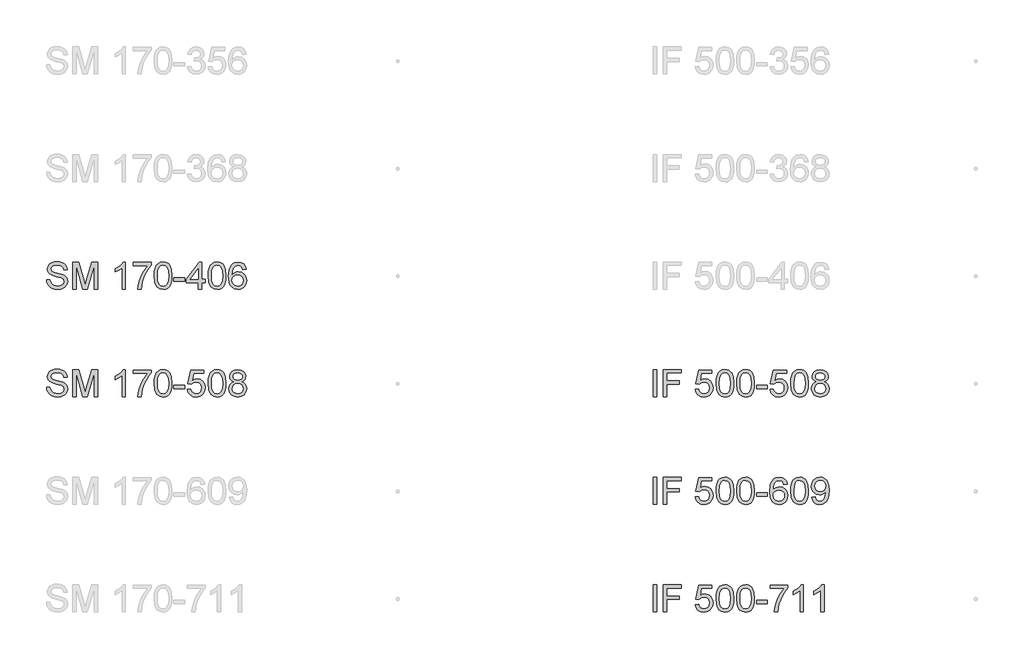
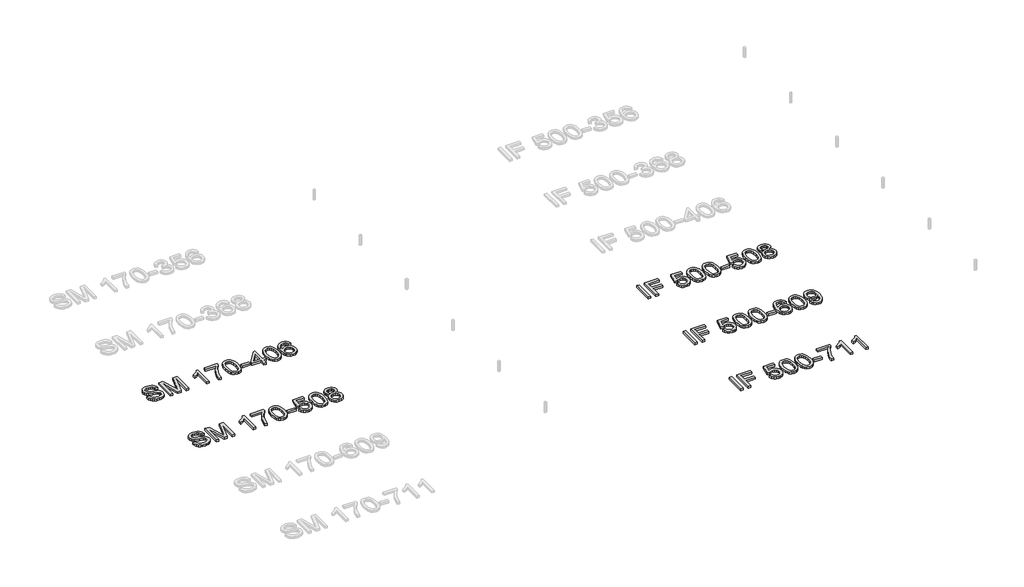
# One storey, part 2 of 10: 5 proxies.
"""IFC4 building model written with IfcOpenShell, lengths in millimetres."""

from ifc_helpers import new_model, si_unit, origin, origin_with_axes, place, context, project, spatial, polyline, outline, extrude, element, save

model = new_model("IFC4")

# Units and contexts
model_context = context("Model", 3, world=origin())
ifc_project = project(units=[si_unit("LENGTHUNIT", "METRE", prefix="MILLI")], contexts=[model_context])

# Site, building, storey
site = spatial("IfcSite", under=ifc_project)
building = spatial("IfcBuilding", under=site)
storey = spatial("IfcBuildingStorey", under=building, Name="Этаж 01", Elevation=0.0)

# Proxies
placement = place(None, origin())
element("IfcBuildingElementProxy", 1, Name="200 мм Arial", ObjectType="200 мм Arial", at=placement, inside=storey, context=model_context, shape_type="SweptSolid", body=[
    extrude(outline(polyline([(362.1098597, -4725.9144615), (387.2239373, -4725.9144615), (395.3173412, -4751.0530645), (403.4475333, -4759.9435461), (415.084867, -4766.9455667), (429.3096375, -4771.4889093), (445.2021397, -4773.0033569), (471.4443887, -4768.4170947), (488.3914859, -4755.811005), (493.9587668, -4738.9620096), (489.7894375, -4723.2902366), (483.4373417, -4717.091425), (472.7197129, -4711.8858947), (436.1522426, -4702.2964374), (396.7888691, -4689.9110769), (384.2870127, -4681.4620537), (375.427188, -4671.2226715), (370.1480813, -4659.4136595), (368.3883791, -4646.2557468), (370.5650143, -4631.5465984), (377.0949197, -4617.8307313), (387.8064171, -4606.2056603), (402.5278283, -4597.7688998), (420.1984268, -4592.636946), (439.7574862, -4590.9262947), (460.9474891, -4592.7166538), (479.4887417, -4598.0877309), (494.7190563, -4606.9291615), (505.9762453, -4619.130581), (513.1008933, -4633.9317), (515.9335846, -4650.5722289), (490.8195071, -4650.5722289), (486.2087194, -4635.5871689), (476.5947366, -4624.7714383), (461.5728885, -4618.2231388), (440.7385048, -4616.0403723), (419.4136118, -4618.1986133), (404.7841712, -4624.6733364), (396.3228853, -4634.2014801), (393.5024567, -4645.5199828), (395.5012822, -4655.1707538), (401.4977587, -4662.9330639), (415.6734782, -4669.8737709), (442.5043384, -4676.9616307), (486.9444834, -4689.5677204), (501.2612244, -4698.6789311), (511.2492206, -4709.9238574), (517.1169384, -4723.179872), (519.0728443, -4738.3243475), (516.8226328, -4753.8060481), (510.0719982, -4768.3680437), (499.096852, -4780.900557), (484.1731057, -4790.2938107), (466.2265957, -4796.1615285), (446.1831584, -4798.1174344), (421.5779843, -4796.0082443), (401.3260804, -4789.680674), (385.1944549, -4779.110198), (372.9501159, -4764.2722909), (365.0897039, -4746.1970222), (362.1098597, -4725.9144615)])), origin_with_axes(), (0.0, 0.0, 1.0), 20.0),
    extrude(outline(polyline([(556.7439606, -4794.9781747), (556.7439606, -4594.0655544), (599.9578323, -4594.0655544), (641.0625139, -4735.6755971), (649.3521216, -4765.2533095), (658.3284422, -4733.2230505), (698.7464108, -4594.0655544), (741.9602825, -4594.0655544), (741.9602825, -4794.9781747), (716.8462049, -4794.9781747), (716.8462049, -4619.179632), (666.3727952, -4794.9781747), (632.3314479, -4794.9781747), (581.8580382, -4619.179632), (581.8580382, -4794.9781747), (556.7439606, -4794.9781747)])), origin_with_axes(), (0.0, 0.0, 1.0), 20.0),
    extrude(outline(polyline([(949.1514222, -4794.9781747), (924.0373446, -4794.9781747), (924.0373446, -4638.4075976), (900.2476423, -4655.3546948), (873.8091896, -4668.0343609), (873.8091896, -4644.2937095), (910.6219145, -4620.7983127), (924.0925269, -4607.2234671), (932.9646144, -4594.0655544), (949.1514222, -4594.0655544), (949.1514222, -4794.9781747)])), origin_with_axes(), (0.0, 0.0, 1.0), 20.0),
    extrude(outline(polyline([(1008.7973563, -4622.3188917), (1008.7973563, -4597.2048141), (1140.6462634, -4597.2048141), (1140.6462634, -4617.5119003), (1121.8536248, -4641.2954712), (1103.2449272, -4671.5415026), (1086.8312589, -4705.4908794), (1074.623708, -4740.3844866), (1065.3040308, -4794.9781747), (1040.1899532, -4794.9781747), (1042.9061486, -4769.091545), (1050.171818, -4738.3243475), (1061.7907577, -4705.7116086), (1077.566764, -4674.2883548), (1095.9853892, -4645.8817334), (1115.5321859, -4622.3188917), (1008.7973563, -4622.3188917)])), origin_with_axes(), (0.0, 0.0, 1.0), 20.0),
    extrude(outline(polyline([(1162.6210812, -4696.1405454), (1164.4666226, -4663.9815276), (1170.0032466, -4638.3340212), (1179.175771, -4618.8056186), (1191.9290135, -4605.0039124), (1208.3549446, -4596.8001439), (1228.5455348, -4594.0655544), (1244.021104, -4595.6842352), (1257.8779925, -4600.5402775), (1269.4662754, -4608.4436091), (1278.1360277, -4619.2041574), (1289.9082516, -4648.9290226), (1294.4699883, -4696.1405454), (1292.6428411, -4728.1156221), (1287.1613993, -4753.7018149), (1278.0440572, -4773.2486115), (1265.3092088, -4787.1055), (1248.8464895, -4795.3644508), (1228.5455348, -4798.1174344), (1202.4504386, -4793.3349685), (1182.6338618, -4778.9875707), (1173.8782703, -4763.8584236), (1167.6242764, -4745.007537), (1162.6210812, -4696.1405454)]), holes=[polyline([(1187.7351588, -4696.0914944), (1190.6782147, -4735.5958893), (1199.5073826, -4758.4597553), (1212.6530326, -4769.3674565), (1228.5455348, -4773.0033569), (1244.438037, -4769.3551938), (1257.5836869, -4758.4107044), (1266.4128548, -4735.5345757), (1269.3559108, -4696.0914944), (1266.5109567, -4657.4761477), (1257.9760944, -4634.434472), (1244.8549699, -4622.993342), (1228.2512292, -4619.179632), (1212.5304052, -4622.5396209), (1199.8997901, -4632.6195875), (1190.7763166, -4657.0960029), (1187.7351588, -4696.0914944)])]), origin_with_axes(), (0.0, 0.0, 1.0), 20.0),
    extrude(outline(polyline([(1310.1662868, -4735.3322406), (1310.1662868, -4710.218163), (1388.6477791, -4710.218163), (1388.6477791, -4735.3322406), (1310.1662868, -4735.3322406)])), origin_with_axes(), (0.0, 0.0, 1.0), 20.0),
    extrude(outline(polyline([(1492.2433489, -4794.9781747), (1492.2433489, -4747.8892793), (1401.2048178, -4747.8892793), (1401.2048178, -4722.7752018), (1498.5218683, -4597.2048141), (1517.3574265, -4597.2048141), (1517.3574265, -4722.7752018), (1542.471504, -4722.7752018), (1542.471504, -4747.8892793), (1517.3574265, -4747.8892793), (1517.3574265, -4794.9781747), (1492.2433489, -4794.9781747)]), holes=[polyline([(1492.2433489, -4722.7752018), (1492.2433489, -4645.1766263), (1432.1069054, -4722.7752018), (1492.2433489, -4722.7752018)])]), origin_with_axes(), (0.0, 0.0, 1.0), 20.0),
    extrude(outline(polyline([(1564.4463218, -4696.1405454), (1566.2918632, -4663.9815276), (1571.8284872, -4638.3340212), (1581.0010116, -4618.8056186), (1593.7542541, -4605.0039124), (1610.1801852, -4596.8001439), (1630.3707754, -4594.0655544), (1645.8463446, -4595.6842352), (1659.7032331, -4600.5402775), (1671.291516, -4608.4436091), (1679.9612683, -4619.2041574), (1691.7334922, -4648.9290226), (1696.2952289, -4696.1405454), (1694.4680817, -4728.1156221), (1688.9866399, -4753.7018149), (1679.8692978, -4773.2486115), (1667.1344494, -4787.1055), (1650.6717301, -4795.3644508), (1630.3707754, -4798.1174344), (1604.2756792, -4793.3349685), (1584.4591024, -4778.9875707), (1575.7035109, -4763.8584236), (1569.449517, -4745.007537), (1564.4463218, -4696.1405454)]), holes=[polyline([(1589.5603994, -4696.0914944), (1592.5034553, -4735.5958893), (1601.3326232, -4758.4597553), (1614.4782732, -4769.3674565), (1630.3707754, -4773.0033569), (1646.2632776, -4769.3551938), (1659.4089275, -4758.4107044), (1668.2380954, -4735.5345757), (1671.1811514, -4696.0914944), (1668.3361973, -4657.4761477), (1659.801335, -4634.434472), (1646.6802105, -4622.993342), (1630.0764698, -4619.179632), (1614.3556458, -4622.5396209), (1601.7250307, -4632.6195875), (1592.6015572, -4657.0960029), (1589.5603994, -4696.0914944)])]), origin_with_axes(), (0.0, 0.0, 1.0), 20.0),
    extrude(outline(polyline([(1846.9796941, -4647.4329692), (1821.8656166, -4650.5722289), (1812.3497357, -4629.6274806), (1800.9576565, -4621.7915941), (1787.1866072, -4619.179632), (1764.5250763, -4625.2619476), (1755.0889031, -4634.8697991), (1747.3817753, -4648.0951568), (1742.1762451, -4666.8019562), (1740.2448646, -4692.8541329), (1750.3186999, -4681.1003031), (1762.3913607, -4672.8168269), (1775.7883967, -4667.9056022), (1789.8353575, -4666.2685273), (1813.0364487, -4670.744425), (1832.509669, -4684.1721178), (1845.7166326, -4704.6876704), (1850.1189538, -4730.4271473), (1848.0465519, -4748.4104455), (1841.8293462, -4765.0816312), (1831.9823715, -4779.2205626), (1819.0206625, -4789.6070976), (1803.5328305, -4795.9898502), (1786.1074867, -4798.1174344), (1757.6150261, -4792.4765772), (1734.9228384, -4775.5540054), (1726.2638159, -4762.4451436), (1720.0787999, -4745.6819874), (1715.1307871, -4701.1927914), (1720.6244915, -4651.1731028), (1727.4916221, -4632.0953557), (1737.1056049, -4616.97234), (1747.5258624, -4606.9506213), (1759.6077203, -4599.7922508), (1788.756237, -4594.0655544), (1810.7923685, -4597.6094843), (1828.4384416, -4608.241274), (1840.7992766, -4625.1270576), (1846.9796941, -4647.4329692)]), holes=[polyline([(1740.2448646, -4730.0347398), (1746.0574001, -4751.7888285), (1761.5084439, -4767.5832288), (1784.1454494, -4773.0033569), (1800.7185332, -4770.195191), (1813.7476872, -4761.7706933), (1822.190579, -4748.5269415), (1825.0048763, -4731.2610132), (1822.2273672, -4714.6879293), (1813.89484, -4702.0511827), (1800.6449568, -4694.0497493), (1783.1153798, -4691.3826049), (1766.5668214, -4694.0497493), (1752.728327, -4702.0511827), (1743.3657302, -4714.3813609), (1740.2448646, -4730.0347398)])]), origin_with_axes(), (0.0, 0.0, 1.0), 20.0),
])
element("IfcBuildingElementProxy", 2, Name="200 мм Arial", ObjectType="200 мм Arial", at=placement, inside=storey, context=model_context, shape_type="SweptSolid", body=[
    extrude(outline(polyline([(362.1098597, -5525.9144615), (387.2239373, -5525.9144615), (395.3173412, -5551.0530645), (403.4475333, -5559.9435461), (415.084867, -5566.9455667), (429.3096375, -5571.4889093), (445.2021397, -5573.0033569), (471.4443887, -5568.4170947), (488.3914859, -5555.811005), (493.9587668, -5538.9620096), (489.7894375, -5523.2902366), (483.4373417, -5517.091425), (472.7197129, -5511.8858947), (436.1522426, -5502.2964374), (396.7888691, -5489.9110769), (384.2870127, -5481.4620537), (375.427188, -5471.2226715), (370.1480813, -5459.4136595), (368.3883791, -5446.2557468), (370.5650143, -5431.5465984), (377.0949197, -5417.8307313), (387.8064171, -5406.2056603), (402.5278283, -5397.7688998), (420.1984268, -5392.636946), (439.7574862, -5390.9262947), (460.9474891, -5392.7166538), (479.4887417, -5398.0877309), (494.7190563, -5406.9291615), (505.9762453, -5419.130581), (513.1008933, -5433.9317), (515.9335846, -5450.5722289), (490.8195071, -5450.5722289), (486.2087194, -5435.5871689), (476.5947366, -5424.7714383), (461.5728885, -5418.2231388), (440.7385048, -5416.0403723), (419.4136118, -5418.1986133), (404.7841712, -5424.6733364), (396.3228853, -5434.2014801), (393.5024567, -5445.5199828), (395.5012822, -5455.1707538), (401.4977587, -5462.9330639), (415.6734782, -5469.8737709), (442.5043384, -5476.9616307), (486.9444834, -5489.5677204), (501.2612244, -5498.6789311), (511.2492206, -5509.9238574), (517.1169384, -5523.179872), (519.0728443, -5538.3243475), (516.8226328, -5553.8060481), (510.0719982, -5568.3680437), (499.096852, -5580.900557), (484.1731057, -5590.2938107), (466.2265957, -5596.1615285), (446.1831584, -5598.1174344), (421.5779843, -5596.0082443), (401.3260804, -5589.680674), (385.1944549, -5579.110198), (372.9501159, -5564.2722909), (365.0897039, -5546.1970222), (362.1098597, -5525.9144615)])), origin_with_axes(), (0.0, 0.0, 1.0), 20.0),
    extrude(outline(polyline([(556.7439606, -5594.9781747), (556.7439606, -5394.0655544), (599.9578323, -5394.0655544), (641.0625139, -5535.6755971), (649.3521216, -5565.2533095), (658.3284422, -5533.2230505), (698.7464108, -5394.0655544), (741.9602825, -5394.0655544), (741.9602825, -5594.9781747), (716.8462049, -5594.9781747), (716.8462049, -5419.179632), (666.3727952, -5594.9781747), (632.3314479, -5594.9781747), (581.8580382, -5419.179632), (581.8580382, -5594.9781747), (556.7439606, -5594.9781747)])), origin_with_axes(), (0.0, 0.0, 1.0), 20.0),
    extrude(outline(polyline([(949.1514222, -5594.9781747), (924.0373446, -5594.9781747), (924.0373446, -5438.4075976), (900.2476423, -5455.3546948), (873.8091896, -5468.0343609), (873.8091896, -5444.2937095), (910.6219145, -5420.7983127), (924.0925269, -5407.2234671), (932.9646144, -5394.0655544), (949.1514222, -5394.0655544), (949.1514222, -5594.9781747)])), origin_with_axes(), (0.0, 0.0, 1.0), 20.0),
    extrude(outline(polyline([(1008.7973563, -5422.3188917), (1008.7973563, -5397.2048141), (1140.6462634, -5397.2048141), (1140.6462634, -5417.5119003), (1121.8536248, -5441.2954712), (1103.2449272, -5471.5415026), (1086.8312589, -5505.4908794), (1074.623708, -5540.3844866), (1065.3040308, -5594.9781747), (1040.1899532, -5594.9781747), (1042.9061486, -5569.091545), (1050.171818, -5538.3243475), (1061.7907577, -5505.7116086), (1077.566764, -5474.2883548), (1095.9853892, -5445.8817334), (1115.5321859, -5422.3188917), (1008.7973563, -5422.3188917)])), origin_with_axes(), (0.0, 0.0, 1.0), 20.0),
    extrude(outline(polyline([(1162.6210812, -5496.1405454), (1164.4666226, -5463.9815276), (1170.0032466, -5438.3340212), (1179.175771, -5418.8056186), (1191.9290135, -5405.0039124), (1208.3549446, -5396.8001439), (1228.5455348, -5394.0655544), (1244.021104, -5395.6842352), (1257.8779925, -5400.5402775), (1269.4662754, -5408.4436091), (1278.1360277, -5419.2041574), (1289.9082516, -5448.9290226), (1294.4699883, -5496.1405454), (1292.6428411, -5528.1156221), (1287.1613993, -5553.7018149), (1278.0440572, -5573.2486115), (1265.3092088, -5587.1055), (1248.8464895, -5595.3644508), (1228.5455348, -5598.1174344), (1202.4504386, -5593.3349685), (1182.6338618, -5578.9875707), (1173.8782703, -5563.8584236), (1167.6242764, -5545.007537), (1162.6210812, -5496.1405454)]), holes=[polyline([(1187.7351588, -5496.0914944), (1190.6782147, -5535.5958893), (1199.5073826, -5558.4597553), (1212.6530326, -5569.3674565), (1228.5455348, -5573.0033569), (1244.438037, -5569.3551938), (1257.5836869, -5558.4107044), (1266.4128548, -5535.5345757), (1269.3559108, -5496.0914944), (1266.5109567, -5457.4761477), (1257.9760944, -5434.434472), (1244.8549699, -5422.993342), (1228.2512292, -5419.179632), (1212.5304052, -5422.5396209), (1199.8997901, -5432.6195875), (1190.7763166, -5457.0960029), (1187.7351588, -5496.0914944)])]), origin_with_axes(), (0.0, 0.0, 1.0), 20.0),
    extrude(outline(polyline([(1310.1662868, -5535.3322406), (1310.1662868, -5510.218163), (1388.6477791, -5510.218163), (1388.6477791, -5535.3322406), (1310.1662868, -5535.3322406)])), origin_with_axes(), (0.0, 0.0, 1.0), 20.0),
    extrude(outline(polyline([(1410.6225969, -5541.61076), (1435.7366745, -5538.4715003), (1440.3474621, -5553.5485307), (1448.3918151, -5564.3458673), (1459.8329451, -5570.8389845), (1474.6340641, -5573.0033569), (1492.6357564, -5569.9928559), (1506.1247629, -5560.9613529), (1514.5492606, -5546.9511803), (1517.3574265, -5529.0046703), (1514.7270702, -5512.1066239), (1506.8360014, -5499.1817032), (1493.6229064, -5490.9779347), (1475.0264715, -5488.2433452), (1452.9780773, -5492.6088782), (1438.8759341, -5503.9396437), (1413.7618566, -5500.800384), (1435.7366745, -5397.2048141), (1533.0537249, -5397.2048141), (1533.0537249, -5422.3188917), (1456.0437606, -5422.3188917), (1445.3016063, -5477.6483437), (1463.241985, -5466.7590367), (1482.0407549, -5463.1292677), (1505.5054948, -5467.6296907), (1524.9848465, -5481.13096), (1538.0998396, -5501.7078262), (1542.471504, -5527.4350404), (1538.5351666, -5552.5491179), (1526.7261546, -5574.0334265), (1516.2905687, -5584.5701799), (1504.1136746, -5592.0964324), (1490.1954725, -5596.6121839), (1474.5359622, -5598.1174344), (1449.8694744, -5594.2485421), (1430.2184445, -5582.6418652), (1416.7478321, -5564.6463042), (1410.6225969, -5541.61076)])), origin_with_axes(), (0.0, 0.0, 1.0), 20.0),
    extrude(outline(polyline([(1564.4463218, -5496.1405454), (1566.2918632, -5463.9815276), (1571.8284872, -5438.3340212), (1581.0010116, -5418.8056186), (1593.7542541, -5405.0039124), (1610.1801852, -5396.8001439), (1630.3707754, -5394.0655544), (1645.8463446, -5395.6842352), (1659.7032331, -5400.5402775), (1671.291516, -5408.4436091), (1679.9612683, -5419.2041574), (1691.7334922, -5448.9290226), (1696.2952289, -5496.1405454), (1694.4680817, -5528.1156221), (1688.9866399, -5553.7018149), (1679.8692978, -5573.2486115), (1667.1344494, -5587.1055), (1650.6717301, -5595.3644508), (1630.3707754, -5598.1174344), (1604.2756792, -5593.3349685), (1584.4591024, -5578.9875707), (1575.7035109, -5563.8584236), (1569.449517, -5545.007537), (1564.4463218, -5496.1405454)]), holes=[polyline([(1589.5603994, -5496.0914944), (1592.5034553, -5535.5958893), (1601.3326232, -5558.4597553), (1614.4782732, -5569.3674565), (1630.3707754, -5573.0033569), (1646.2632776, -5569.3551938), (1659.4089275, -5558.4107044), (1668.2380954, -5535.5345757), (1671.1811514, -5496.0914944), (1668.3361973, -5457.4761477), (1659.801335, -5434.434472), (1646.6802105, -5422.993342), (1630.0764698, -5419.179632), (1614.3556458, -5422.5396209), (1601.7250307, -5432.6195875), (1592.6015572, -5457.0960029), (1589.5603994, -5496.0914944)])]), origin_with_axes(), (0.0, 0.0, 1.0), 20.0),
    extrude(outline(polyline([(1754.8620425, -5484.3192706), (1741.4159556, -5477.6973947), (1731.9797824, -5468.721074), (1726.4063702, -5457.5742495), (1724.5485661, -5444.4408623), (1728.5952681, -5424.8082265), (1740.7353739, -5408.5846305), (1759.6077203, -5397.6953234), (1783.8511438, -5394.0655544), (1808.24172, -5397.7811626), (1827.3593211, -5408.927987), (1839.7201561, -5425.4091004), (1843.8404344, -5445.1275754), (1842.0071558, -5457.8378983), (1836.50732, -5468.7946504), (1827.2796133, -5477.7157888), (1814.262722, -5484.3192706), (1829.7198972, -5492.2839158), (1840.9709549, -5504.0132201), (1847.8319541, -5518.9430977), (1850.1189538, -5536.509463), (1845.5817425, -5560.5198945), (1831.9701087, -5580.3609968), (1810.9517841, -5593.678325), (1784.1945003, -5598.1174344), (1757.4372165, -5593.6599309), (1736.4188918, -5580.2874204), (1722.807258, -5560.2562457), (1718.2700468, -5535.8227499), (1720.649017, -5517.5758029), (1727.7859277, -5502.5662175), (1739.3128969, -5491.3090285), (1754.8620425, -5484.3192706)]), holes=[polyline([(1749.6626437, -5445.1766263), (1751.8883297, -5456.1395097), (1758.565388, -5464.8951012), (1769.4976146, -5470.6340604), (1784.4888059, -5472.5470467), (1799.1305093, -5470.6463231), (1809.897189, -5464.9441522), (1816.5190649, -5456.4828663), (1818.7263569, -5446.3047977), (1816.4454885, -5435.7404531), (1809.6028834, -5427.0032557), (1798.6890509, -5421.1355379), (1784.1945003, -5419.179632), (1769.6079792, -5421.0926183), (1758.7125408, -5426.8315775), (1751.9251179, -5435.2438124), (1749.6626437, -5445.1766263)]), polyline([(1743.3841243, -5534.9398331), (1747.577979, -5553.8489677), (1753.3843832, -5561.9607657), (1762.4158862, -5568.0001617), (1784.390704, -5573.0033569), (1801.4849541, -5570.3730006), (1814.311773, -5562.4819318), (1822.3316005, -5550.5318983), (1825.0048763, -5535.724648), (1822.2457613, -5520.6660117), (1813.9684164, -5508.4523295), (1800.8472919, -5500.3589256), (1783.5568382, -5497.6611243), (1766.7017114, -5500.3221374), (1754.0036512, -5508.3051767), (1746.039006, -5520.285867), (1743.3841243, -5534.9398331)])]), origin_with_axes(), (0.0, 0.0, 1.0), 20.0),
])
element("IfcBuildingElementProxy", 3, Name="200 мм Arial", ObjectType="200 мм Arial", at=placement, inside=storey, context=model_context, shape_type="SweptSolid", body=[
    extrude(outline(polyline([(4874.6668985, -5594.9781747), (4874.6668985, -5394.0655544), (4899.780976, -5394.0655544), (4899.780976, -5594.9781747), (4874.6668985, -5594.9781747)])), origin_with_axes(), (0.0, 0.0, 1.0), 20.0),
    extrude(outline(polyline([(4950.0091311, -5594.9781747), (4950.0091311, -5394.0655544), (5084.9972979, -5394.0655544), (5084.9972979, -5419.179632), (4975.1232086, -5419.179632), (4975.1232086, -5478.8255661), (5069.3009994, -5478.8255661), (5069.3009994, -5503.9396437), (4975.1232086, -5503.9396437), (4975.1232086, -5594.9781747), (4950.0091311, -5594.9781747)])), origin_with_axes(), (0.0, 0.0, 1.0), 20.0),
    extrude(outline(polyline([(5188.5928677, -5541.61076), (5213.7069453, -5538.4715003), (5218.3177329, -5553.5485307), (5226.3620859, -5564.3458673), (5237.8032159, -5570.8389845), (5252.6043349, -5573.0033569), (5270.6060272, -5569.9928559), (5284.0950337, -5560.9613529), (5292.5195314, -5546.9511803), (5295.3276973, -5529.0046703), (5292.697341, -5512.1066239), (5284.8062722, -5499.1817032), (5271.5931772, -5490.9779347), (5252.9967423, -5488.2433452), (5230.9483481, -5492.6088782), (5216.8462049, -5503.9396437), (5191.7321274, -5500.800384), (5213.7069453, -5397.2048141), (5311.0239957, -5397.2048141), (5311.0239957, -5422.3188917), (5234.0140314, -5422.3188917), (5223.2718771, -5477.6483437), (5241.2122558, -5466.7590367), (5260.0110257, -5463.1292677), (5283.4757656, -5467.6296907), (5302.9551173, -5481.13096), (5316.0701104, -5501.7078262), (5320.4417748, -5527.4350404), (5316.5054374, -5552.5491179), (5304.6964254, -5574.0334265), (5294.2608395, -5584.5701799), (5282.0839454, -5592.0964324), (5268.1657433, -5596.6121839), (5252.506233, -5598.1174344), (5227.8397452, -5594.2485421), (5208.1887153, -5582.6418652), (5194.7181029, -5564.6463042), (5188.5928677, -5541.61076)])), origin_with_axes(), (0.0, 0.0, 1.0), 20.0),
    extrude(outline(polyline([(5342.4165926, -5496.1405454), (5344.262134, -5463.9815276), (5349.798758, -5438.3340212), (5358.9712824, -5418.8056186), (5371.7245249, -5405.0039124), (5388.150456, -5396.8001439), (5408.3410462, -5394.0655544), (5423.8166154, -5395.6842352), (5437.6735039, -5400.5402775), (5449.2617868, -5408.4436091), (5457.9315391, -5419.2041574), (5469.703763, -5448.9290226), (5474.2654997, -5496.1405454), (5472.4383525, -5528.1156221), (5466.9569107, -5553.7018149), (5457.8395686, -5573.2486115), (5445.1047202, -5587.1055), (5428.6420009, -5595.3644508), (5408.3410462, -5598.1174344), (5382.24595, -5593.3349685), (5362.4293732, -5578.9875707), (5353.6737817, -5563.8584236), (5347.4197878, -5545.007537), (5342.4165926, -5496.1405454)]), holes=[polyline([(5367.5306702, -5496.0914944), (5370.4737261, -5535.5958893), (5379.302894, -5558.4597553), (5392.448544, -5569.3674565), (5408.3410462, -5573.0033569), (5424.2335484, -5569.3551938), (5437.3791983, -5558.4107044), (5446.2083662, -5535.5345757), (5449.1514222, -5496.0914944), (5446.3064681, -5457.4761477), (5437.7716058, -5434.434472), (5424.6504813, -5422.993342), (5408.0467406, -5419.179632), (5392.3259166, -5422.5396209), (5379.6953015, -5432.6195875), (5370.571828, -5457.0960029), (5367.5306702, -5496.0914944)])]), origin_with_axes(), (0.0, 0.0, 1.0), 20.0),
    extrude(outline(polyline([(5496.2403175, -5496.1405454), (5498.0858589, -5463.9815276), (5503.6224829, -5438.3340212), (5512.7950073, -5418.8056186), (5525.5482498, -5405.0039124), (5541.9741809, -5396.8001439), (5562.1647711, -5394.0655544), (5577.6403403, -5395.6842352), (5591.4972288, -5400.5402775), (5603.0855117, -5408.4436091), (5611.755264, -5419.2041574), (5623.5274879, -5448.9290226), (5628.0892246, -5496.1405454), (5626.2620774, -5528.1156221), (5620.7806357, -5553.7018149), (5611.6632935, -5573.2486115), (5598.9284451, -5587.1055), (5582.4657259, -5595.3644508), (5562.1647711, -5598.1174344), (5536.0696749, -5593.3349685), (5516.2530981, -5578.9875707), (5507.4975066, -5563.8584236), (5501.2435127, -5545.007537), (5496.2403175, -5496.1405454)]), holes=[polyline([(5521.3543951, -5496.0914944), (5524.297451, -5535.5958893), (5533.1266189, -5558.4597553), (5546.2722689, -5569.3674565), (5562.1647711, -5573.0033569), (5578.0572733, -5569.3551938), (5591.2029232, -5558.4107044), (5600.0320911, -5535.5345757), (5602.9751471, -5496.0914944), (5600.130193, -5457.4761477), (5591.5953307, -5434.434472), (5578.4742062, -5422.993342), (5561.8704655, -5419.179632), (5546.1496416, -5422.5396209), (5533.5190264, -5432.6195875), (5524.3955529, -5457.0960029), (5521.3543951, -5496.0914944)])]), origin_with_axes(), (0.0, 0.0, 1.0), 20.0),
    extrude(outline(polyline([(5643.7855231, -5535.3322406), (5643.7855231, -5510.218163), (5722.2670154, -5510.218163), (5722.2670154, -5535.3322406), (5643.7855231, -5535.3322406)])), origin_with_axes(), (0.0, 0.0, 1.0), 20.0),
    extrude(outline(polyline([(5744.2418332, -5541.61076), (5769.3559108, -5538.4715003), (5773.9666984, -5553.5485307), (5782.0110514, -5564.3458673), (5793.4521815, -5570.8389845), (5808.2533004, -5573.0033569), (5826.2549927, -5569.9928559), (5839.7439992, -5560.9613529), (5848.1684969, -5546.9511803), (5850.9766628, -5529.0046703), (5848.3463065, -5512.1066239), (5840.4552377, -5499.1817032), (5827.2421427, -5490.9779347), (5808.6457079, -5488.2433452), (5786.5973136, -5492.6088782), (5772.4951705, -5503.9396437), (5747.3810929, -5500.800384), (5769.3559108, -5397.2048141), (5866.6729612, -5397.2048141), (5866.6729612, -5422.3188917), (5789.6629969, -5422.3188917), (5778.9208426, -5477.6483437), (5796.8612213, -5466.7590367), (5815.6599912, -5463.1292677), (5839.1247312, -5467.6296907), (5858.6040828, -5481.13096), (5871.7190759, -5501.7078262), (5876.0907403, -5527.4350404), (5872.154403, -5552.5491179), (5860.3453909, -5574.0334265), (5849.909805, -5584.5701799), (5837.7329109, -5592.0964324), (5823.8147088, -5596.6121839), (5808.1551985, -5598.1174344), (5783.4887108, -5594.2485421), (5763.8376808, -5582.6418652), (5750.3670685, -5564.6463042), (5744.2418332, -5541.61076)])), origin_with_axes(), (0.0, 0.0, 1.0), 20.0),
    extrude(outline(polyline([(5898.0655581, -5496.1405454), (5899.9110995, -5463.9815276), (5905.4477235, -5438.3340212), (5914.6202479, -5418.8056186), (5927.3734904, -5405.0039124), (5943.7994215, -5396.8001439), (5963.9900117, -5394.0655544), (5979.4655809, -5395.6842352), (5993.3224694, -5400.5402775), (6004.9107523, -5408.4436091), (6013.5805046, -5419.2041574), (6025.3527285, -5448.9290226), (6029.9144652, -5496.1405454), (6028.087318, -5528.1156221), (6022.6058762, -5553.7018149), (6013.4885341, -5573.2486115), (6000.7536857, -5587.1055), (5984.2909665, -5595.3644508), (5963.9900117, -5598.1174344), (5937.8949155, -5593.3349685), (5918.0783387, -5578.9875707), (5909.3227472, -5563.8584236), (5903.0687533, -5545.007537), (5898.0655581, -5496.1405454)]), holes=[polyline([(5923.1796357, -5496.0914944), (5926.1226916, -5535.5958893), (5934.9518595, -5558.4597553), (5948.0975095, -5569.3674565), (5963.9900117, -5573.0033569), (5979.8825139, -5569.3551938), (5993.0281638, -5558.4107044), (6001.8573317, -5535.5345757), (6004.8003877, -5496.0914944), (6001.9554336, -5457.4761477), (5993.4205713, -5434.434472), (5980.2994468, -5422.993342), (5963.6957061, -5419.179632), (5947.9748822, -5422.5396209), (5935.344267, -5432.6195875), (5926.2207935, -5457.0960029), (5923.1796357, -5496.0914944)])]), origin_with_axes(), (0.0, 0.0, 1.0), 20.0),
    extrude(outline(polyline([(6088.4812789, -5484.3192706), (6075.0351919, -5477.6973947), (6065.5990188, -5468.721074), (6060.0256065, -5457.5742495), (6058.1678024, -5444.4408623), (6062.2145044, -5424.8082265), (6074.3546102, -5408.5846305), (6093.2269566, -5397.6953234), (6117.4703801, -5394.0655544), (6141.8609564, -5397.7811626), (6160.9785574, -5408.927987), (6173.3393924, -5425.4091004), (6177.4596708, -5445.1275754), (6175.6263921, -5457.8378983), (6170.1265563, -5468.7946504), (6160.8988496, -5477.7157888), (6147.8819583, -5484.3192706), (6163.3391335, -5492.2839158), (6174.5901912, -5504.0132201), (6181.4511904, -5518.9430977), (6183.7381901, -5536.509463), (6179.2009789, -5560.5198945), (6165.589345, -5580.3609968), (6144.5710204, -5593.678325), (6117.8137366, -5598.1174344), (6091.0564528, -5593.6599309), (6070.0381282, -5580.2874204), (6056.4264943, -5560.2562457), (6051.8892831, -5535.8227499), (6054.2682533, -5517.5758029), (6061.405164, -5502.5662175), (6072.9321332, -5491.3090285), (6088.4812789, -5484.3192706)]), holes=[polyline([(6083.28188, -5445.1766263), (6085.5075661, -5456.1395097), (6092.1846243, -5464.8951012), (6103.1168509, -5470.6340604), (6118.1080422, -5472.5470467), (6132.7497456, -5470.6463231), (6143.5164253, -5464.9441522), (6150.1383012, -5456.4828663), (6152.3455932, -5446.3047977), (6150.0647248, -5435.7404531), (6143.2221197, -5427.0032557), (6132.3082872, -5421.1355379), (6117.8137366, -5419.179632), (6103.2272155, -5421.0926183), (6092.3317771, -5426.8315775), (6085.5443543, -5435.2438124), (6083.28188, -5445.1766263)]), polyline([(6077.0033606, -5534.9398331), (6081.1972153, -5553.8489677), (6087.0036195, -5561.9607657), (6096.0351225, -5568.0001617), (6118.0099403, -5573.0033569), (6135.1041904, -5570.3730006), (6147.9310093, -5562.4819318), (6155.9508368, -5550.5318983), (6158.6241126, -5535.724648), (6155.8649976, -5520.6660117), (6147.5876527, -5508.4523295), (6134.4665282, -5500.3589256), (6117.1760745, -5497.6611243), (6100.3209477, -5500.3221374), (6087.6228875, -5508.3051767), (6079.6582423, -5520.285867), (6077.0033606, -5534.9398331)])]), origin_with_axes(), (0.0, 0.0, 1.0), 20.0),
])
element("IfcBuildingElementProxy", 4, Name="200 мм Arial", ObjectType="200 мм Arial", at=placement, inside=storey, context=model_context, shape_type="SweptSolid", body=[
    extrude(outline(polyline([(4874.6668985, -6394.9781747), (4874.6668985, -6194.0655544), (4899.780976, -6194.0655544), (4899.780976, -6394.9781747), (4874.6668985, -6394.9781747)])), origin_with_axes(), (0.0, 0.0, 1.0), 20.0),
    extrude(outline(polyline([(4950.0091311, -6394.9781747), (4950.0091311, -6194.0655544), (5084.9972979, -6194.0655544), (5084.9972979, -6219.179632), (4975.1232086, -6219.179632), (4975.1232086, -6278.8255661), (5069.3009994, -6278.8255661), (5069.3009994, -6303.9396437), (4975.1232086, -6303.9396437), (4975.1232086, -6394.9781747), (4950.0091311, -6394.9781747)])), origin_with_axes(), (0.0, 0.0, 1.0), 20.0),
    extrude(outline(polyline([(5188.5928677, -6341.61076), (5213.7069453, -6338.4715003), (5218.3177329, -6353.5485307), (5226.3620859, -6364.3458673), (5237.8032159, -6370.8389845), (5252.6043349, -6373.0033569), (5270.6060272, -6369.9928559), (5284.0950337, -6360.9613529), (5292.5195314, -6346.9511803), (5295.3276973, -6329.0046703), (5292.697341, -6312.1066239), (5284.8062722, -6299.1817032), (5271.5931772, -6290.9779347), (5252.9967423, -6288.2433452), (5230.9483481, -6292.6088782), (5216.8462049, -6303.9396437), (5191.7321274, -6300.800384), (5213.7069453, -6197.2048141), (5311.0239957, -6197.2048141), (5311.0239957, -6222.3188917), (5234.0140314, -6222.3188917), (5223.2718771, -6277.6483437), (5241.2122558, -6266.7590367), (5260.0110257, -6263.1292677), (5283.4757656, -6267.6296907), (5302.9551173, -6281.13096), (5316.0701104, -6301.7078262), (5320.4417748, -6327.4350404), (5316.5054374, -6352.5491179), (5304.6964254, -6374.0334265), (5294.2608395, -6384.5701799), (5282.0839454, -6392.0964324), (5268.1657433, -6396.6121839), (5252.506233, -6398.1174344), (5227.8397452, -6394.2485421), (5208.1887153, -6382.6418652), (5194.7181029, -6364.6463042), (5188.5928677, -6341.61076)])), origin_with_axes(), (0.0, 0.0, 1.0), 20.0),
    extrude(outline(polyline([(5342.4165926, -6296.1405454), (5344.262134, -6263.9815276), (5349.798758, -6238.3340212), (5358.9712824, -6218.8056186), (5371.7245249, -6205.0039124), (5388.150456, -6196.8001439), (5408.3410462, -6194.0655544), (5423.8166154, -6195.6842352), (5437.6735039, -6200.5402775), (5449.2617868, -6208.4436091), (5457.9315391, -6219.2041574), (5469.703763, -6248.9290226), (5474.2654997, -6296.1405454), (5472.4383525, -6328.1156221), (5466.9569107, -6353.7018149), (5457.8395686, -6373.2486115), (5445.1047202, -6387.1055), (5428.6420009, -6395.3644508), (5408.3410462, -6398.1174344), (5382.24595, -6393.3349685), (5362.4293732, -6378.9875707), (5353.6737817, -6363.8584236), (5347.4197878, -6345.007537), (5342.4165926, -6296.1405454)]), holes=[polyline([(5367.5306702, -6296.0914944), (5370.4737261, -6335.5958893), (5379.302894, -6358.4597553), (5392.448544, -6369.3674565), (5408.3410462, -6373.0033569), (5424.2335484, -6369.3551938), (5437.3791983, -6358.4107044), (5446.2083662, -6335.5345757), (5449.1514222, -6296.0914944), (5446.3064681, -6257.4761477), (5437.7716058, -6234.434472), (5424.6504813, -6222.993342), (5408.0467406, -6219.179632), (5392.3259166, -6222.5396209), (5379.6953015, -6232.6195875), (5370.571828, -6257.0960029), (5367.5306702, -6296.0914944)])]), origin_with_axes(), (0.0, 0.0, 1.0), 20.0),
    extrude(outline(polyline([(5496.2403175, -6296.1405454), (5498.0858589, -6263.9815276), (5503.6224829, -6238.3340212), (5512.7950073, -6218.8056186), (5525.5482498, -6205.0039124), (5541.9741809, -6196.8001439), (5562.1647711, -6194.0655544), (5577.6403403, -6195.6842352), (5591.4972288, -6200.5402775), (5603.0855117, -6208.4436091), (5611.755264, -6219.2041574), (5623.5274879, -6248.9290226), (5628.0892246, -6296.1405454), (5626.2620774, -6328.1156221), (5620.7806357, -6353.7018149), (5611.6632935, -6373.2486115), (5598.9284451, -6387.1055), (5582.4657259, -6395.3644508), (5562.1647711, -6398.1174344), (5536.0696749, -6393.3349685), (5516.2530981, -6378.9875707), (5507.4975066, -6363.8584236), (5501.2435127, -6345.007537), (5496.2403175, -6296.1405454)]), holes=[polyline([(5521.3543951, -6296.0914944), (5524.297451, -6335.5958893), (5533.1266189, -6358.4597553), (5546.2722689, -6369.3674565), (5562.1647711, -6373.0033569), (5578.0572733, -6369.3551938), (5591.2029232, -6358.4107044), (5600.0320911, -6335.5345757), (5602.9751471, -6296.0914944), (5600.130193, -6257.4761477), (5591.5953307, -6234.434472), (5578.4742062, -6222.993342), (5561.8704655, -6219.179632), (5546.1496416, -6222.5396209), (5533.5190264, -6232.6195875), (5524.3955529, -6257.0960029), (5521.3543951, -6296.0914944)])]), origin_with_axes(), (0.0, 0.0, 1.0), 20.0),
    extrude(outline(polyline([(5643.7855231, -6335.3322406), (5643.7855231, -6310.218163), (5722.2670154, -6310.218163), (5722.2670154, -6335.3322406), (5643.7855231, -6335.3322406)])), origin_with_axes(), (0.0, 0.0, 1.0), 20.0),
    extrude(outline(polyline([(5872.9514806, -6247.4329692), (5847.8374031, -6250.5722289), (5838.3215221, -6229.6274806), (5826.929443, -6221.7915941), (5813.1583937, -6219.179632), (5790.4968628, -6225.2619476), (5781.0606896, -6234.8697991), (5773.3535618, -6248.0951568), (5768.1480316, -6266.8019562), (5766.2166511, -6292.8541329), (5776.2904864, -6281.1003031), (5788.3631472, -6272.8168269), (5801.7601832, -6267.9056022), (5815.807144, -6266.2685273), (5839.0082352, -6270.744425), (5858.4814555, -6284.1721178), (5871.6884191, -6304.6876704), (5876.0907403, -6330.4271473), (5874.0183384, -6348.4104455), (5867.8011327, -6365.0816312), (5857.9541579, -6379.2205626), (5844.992449, -6389.6070976), (5829.504617, -6395.9898502), (5812.0792731, -6398.1174344), (5783.5868126, -6392.4765772), (5760.8946249, -6375.5540054), (5752.2356024, -6362.4451436), (5746.0505864, -6345.6819874), (5741.1025735, -6301.1927914), (5746.596278, -6251.1731028), (5753.4634086, -6232.0953557), (5763.0773914, -6216.97234), (5773.4976489, -6206.9506213), (5785.5795068, -6199.7922508), (5814.7280235, -6194.0655544), (5836.764155, -6197.6094843), (5854.4102281, -6208.241274), (5866.7710631, -6225.1270576), (5872.9514806, -6247.4329692)]), holes=[polyline([(5766.2166511, -6330.0347398), (5772.0291866, -6351.7888285), (5787.4802304, -6367.5832288), (5810.1172358, -6373.0033569), (5826.6903197, -6370.195191), (5839.7194737, -6361.7706933), (5848.1623655, -6348.5269415), (5850.9766628, -6331.2610132), (5848.1991537, -6314.6879293), (5839.8666265, -6302.0511827), (5826.6167433, -6294.0497493), (5809.0871662, -6291.3826049), (5792.5386078, -6294.0497493), (5778.7001134, -6302.0511827), (5769.3375167, -6314.3813609), (5766.2166511, -6330.0347398)])]), origin_with_axes(), (0.0, 0.0, 1.0), 20.0),
    extrude(outline(polyline([(5898.0655581, -6296.1405454), (5899.9110995, -6263.9815276), (5905.4477235, -6238.3340212), (5914.6202479, -6218.8056186), (5927.3734904, -6205.0039124), (5943.7994215, -6196.8001439), (5963.9900117, -6194.0655544), (5979.4655809, -6195.6842352), (5993.3224694, -6200.5402775), (6004.9107523, -6208.4436091), (6013.5805046, -6219.2041574), (6025.3527285, -6248.9290226), (6029.9144652, -6296.1405454), (6028.087318, -6328.1156221), (6022.6058762, -6353.7018149), (6013.4885341, -6373.2486115), (6000.7536857, -6387.1055), (5984.2909665, -6395.3644508), (5963.9900117, -6398.1174344), (5937.8949155, -6393.3349685), (5918.0783387, -6378.9875707), (5909.3227472, -6363.8584236), (5903.0687533, -6345.007537), (5898.0655581, -6296.1405454)]), holes=[polyline([(5923.1796357, -6296.0914944), (5926.1226916, -6335.5958893), (5934.9518595, -6358.4597553), (5948.0975095, -6369.3674565), (5963.9900117, -6373.0033569), (5979.8825139, -6369.3551938), (5993.0281638, -6358.4107044), (6001.8573317, -6335.5345757), (6004.8003877, -6296.0914944), (6001.9554336, -6257.4761477), (5993.4205713, -6234.434472), (5980.2994468, -6222.993342), (5963.6957061, -6219.179632), (5947.9748822, -6222.5396209), (5935.344267, -6232.6195875), (5926.2207935, -6257.0960029), (5923.1796357, -6296.0914944)])]), origin_with_axes(), (0.0, 0.0, 1.0), 20.0),
    extrude(outline(polyline([(6055.0285428, -6344.7500196), (6080.1426203, -6341.61076), (6084.4345769, -6355.8661873), (6091.4243348, -6365.5721406), (6100.9402158, -6371.1455528), (6112.8105415, -6373.0033569), (6133.1421531, -6368.2208909), (6146.9254652, -6355.443123), (6155.1414964, -6333.6154579), (6158.7712654, -6304.4792039), (6158.6241126, -6299.5741106), (6149.9237034, -6310.1936376), (6138.5377557, -6318.6058725), (6125.2878725, -6324.0873143), (6110.995657, -6325.9144615), (6088.0950028, -6321.4508266), (6069.032584, -6308.059922), (6056.1751083, -6287.3726911), (6051.8892831, -6261.0200775), (6056.3835748, -6233.7968099), (6069.8664499, -6212.4596542), (6090.1183537, -6198.6640794), (6114.9197316, -6194.0655544), (6133.6510565, -6196.6897793), (6150.702387, -6204.562454), (6164.9639456, -6217.2911711), (6175.3259552, -6234.483523), (6181.6351314, -6258.2486999), (6183.7381901, -6290.6958918), (6181.6412628, -6325.0989897), (6175.3504806, -6351.6907266), (6164.9210261, -6371.6728503), (6150.4080814, -6386.2471087), (6132.4370459, -6395.149853), (6111.6333191, -6398.1174344), (6090.1612733, -6394.6164241), (6073.0302351, -6384.1133931), (6061.0495447, -6367.2705291), (6055.0285428, -6344.7500196)]), holes=[polyline([(6158.6241126, -6260.4314664), (6155.9140486, -6243.4107927), (6147.7838565, -6230.3141937), (6135.165504, -6221.9632724), (6118.990959, -6219.179632), (6102.21554, -6222.1778702), (6088.7755844, -6231.172585), (6079.9464166, -6244.937503), (6077.0033606, -6262.2463509), (6079.787001, -6277.7648397), (6088.1379223, -6290.0827552), (6101.2467841, -6298.1209768), (6118.3042459, -6300.800384), (6134.3500323, -6298.1209768), (6147.2688217, -6290.0827552), (6155.7852899, -6277.3111186), (6158.6241126, -6260.4314664)])]), origin_with_axes(), (0.0, 0.0, 1.0), 20.0),
])
element("IfcBuildingElementProxy", 5, Name="200 мм Arial", ObjectType="200 мм Arial", at=placement, inside=storey, context=model_context, shape_type="SweptSolid", body=[
    extrude(outline(polyline([(4874.6668985, -7194.9781747), (4874.6668985, -6994.0655544), (4899.780976, -6994.0655544), (4899.780976, -7194.9781747), (4874.6668985, -7194.9781747)])), origin_with_axes(), (0.0, 0.0, 1.0), 20.0),
    extrude(outline(polyline([(4950.0091311, -7194.9781747), (4950.0091311, -6994.0655544), (5084.9972979, -6994.0655544), (5084.9972979, -7019.179632), (4975.1232086, -7019.179632), (4975.1232086, -7078.8255661), (5069.3009994, -7078.8255661), (5069.3009994, -7103.9396437), (4975.1232086, -7103.9396437), (4975.1232086, -7194.9781747), (4950.0091311, -7194.9781747)])), origin_with_axes(), (0.0, 0.0, 1.0), 20.0),
    extrude(outline(polyline([(5188.5928677, -7141.61076), (5213.7069453, -7138.4715003), (5218.3177329, -7153.5485307), (5226.3620859, -7164.3458673), (5237.8032159, -7170.8389845), (5252.6043349, -7173.0033569), (5270.6060272, -7169.9928559), (5284.0950337, -7160.9613529), (5292.5195314, -7146.9511803), (5295.3276973, -7129.0046703), (5292.697341, -7112.1066239), (5284.8062722, -7099.1817032), (5271.5931772, -7090.9779347), (5252.9967423, -7088.2433452), (5230.9483481, -7092.6088782), (5216.8462049, -7103.9396437), (5191.7321274, -7100.800384), (5213.7069453, -6997.2048141), (5311.0239957, -6997.2048141), (5311.0239957, -7022.3188917), (5234.0140314, -7022.3188917), (5223.2718771, -7077.6483437), (5241.2122558, -7066.7590367), (5260.0110257, -7063.1292677), (5283.4757656, -7067.6296907), (5302.9551173, -7081.13096), (5316.0701104, -7101.7078262), (5320.4417748, -7127.4350404), (5316.5054374, -7152.5491179), (5304.6964254, -7174.0334265), (5294.2608395, -7184.5701799), (5282.0839454, -7192.0964324), (5268.1657433, -7196.6121839), (5252.506233, -7198.1174344), (5227.8397452, -7194.2485421), (5208.1887153, -7182.6418652), (5194.7181029, -7164.6463042), (5188.5928677, -7141.61076)])), origin_with_axes(), (0.0, 0.0, 1.0), 20.0),
    extrude(outline(polyline([(5342.4165926, -7096.1405454), (5344.262134, -7063.9815276), (5349.798758, -7038.3340212), (5358.9712824, -7018.8056186), (5371.7245249, -7005.0039124), (5388.150456, -6996.8001439), (5408.3410462, -6994.0655544), (5423.8166154, -6995.6842352), (5437.6735039, -7000.5402775), (5449.2617868, -7008.4436091), (5457.9315391, -7019.2041574), (5469.703763, -7048.9290226), (5474.2654997, -7096.1405454), (5472.4383525, -7128.1156221), (5466.9569107, -7153.7018149), (5457.8395686, -7173.2486115), (5445.1047202, -7187.1055), (5428.6420009, -7195.3644508), (5408.3410462, -7198.1174344), (5382.24595, -7193.3349685), (5362.4293732, -7178.9875707), (5353.6737817, -7163.8584236), (5347.4197878, -7145.007537), (5342.4165926, -7096.1405454)]), holes=[polyline([(5367.5306702, -7096.0914944), (5370.4737261, -7135.5958893), (5379.302894, -7158.4597553), (5392.448544, -7169.3674565), (5408.3410462, -7173.0033569), (5424.2335484, -7169.3551938), (5437.3791983, -7158.4107044), (5446.2083662, -7135.5345757), (5449.1514222, -7096.0914944), (5446.3064681, -7057.4761477), (5437.7716058, -7034.434472), (5424.6504813, -7022.993342), (5408.0467406, -7019.179632), (5392.3259166, -7022.5396209), (5379.6953015, -7032.6195875), (5370.571828, -7057.0960029), (5367.5306702, -7096.0914944)])]), origin_with_axes(), (0.0, 0.0, 1.0), 20.0),
    extrude(outline(polyline([(5496.2403175, -7096.1405454), (5498.0858589, -7063.9815276), (5503.6224829, -7038.3340212), (5512.7950073, -7018.8056186), (5525.5482498, -7005.0039124), (5541.9741809, -6996.8001439), (5562.1647711, -6994.0655544), (5577.6403403, -6995.6842352), (5591.4972288, -7000.5402775), (5603.0855117, -7008.4436091), (5611.755264, -7019.2041574), (5623.5274879, -7048.9290226), (5628.0892246, -7096.1405454), (5626.2620774, -7128.1156221), (5620.7806357, -7153.7018149), (5611.6632935, -7173.2486115), (5598.9284451, -7187.1055), (5582.4657259, -7195.3644508), (5562.1647711, -7198.1174344), (5536.0696749, -7193.3349685), (5516.2530981, -7178.9875707), (5507.4975066, -7163.8584236), (5501.2435127, -7145.007537), (5496.2403175, -7096.1405454)]), holes=[polyline([(5521.3543951, -7096.0914944), (5524.297451, -7135.5958893), (5533.1266189, -7158.4597553), (5546.2722689, -7169.3674565), (5562.1647711, -7173.0033569), (5578.0572733, -7169.3551938), (5591.2029232, -7158.4107044), (5600.0320911, -7135.5345757), (5602.9751471, -7096.0914944), (5600.130193, -7057.4761477), (5591.5953307, -7034.434472), (5578.4742062, -7022.993342), (5561.8704655, -7019.179632), (5546.1496416, -7022.5396209), (5533.5190264, -7032.6195875), (5524.3955529, -7057.0960029), (5521.3543951, -7096.0914944)])]), origin_with_axes(), (0.0, 0.0, 1.0), 20.0),
    extrude(outline(polyline([(5643.7855231, -7135.3322406), (5643.7855231, -7110.218163), (5722.2670154, -7110.218163), (5722.2670154, -7135.3322406), (5643.7855231, -7135.3322406)])), origin_with_axes(), (0.0, 0.0, 1.0), 20.0),
    extrude(outline(polyline([(5744.2418332, -7022.3188917), (5744.2418332, -6997.2048141), (5876.0907403, -6997.2048141), (5876.0907403, -7017.5119003), (5857.2981017, -7041.2954712), (5838.6894041, -7071.5415026), (5822.2757358, -7105.4908794), (5810.0681849, -7140.3844866), (5800.7485077, -7194.9781747), (5775.6344302, -7194.9781747), (5778.3506256, -7169.091545), (5785.616295, -7138.3243475), (5797.2352346, -7105.7116086), (5813.0112409, -7074.2883548), (5831.4298661, -7045.8817334), (5850.9766628, -7022.3188917), (5744.2418332, -7022.3188917)])), origin_with_axes(), (0.0, 0.0, 1.0), 20.0),
    extrude(outline(polyline([(5992.2433489, -7194.9781747), (5967.1292714, -7194.9781747), (5967.1292714, -7038.4075976), (5943.339569, -7055.3546948), (5916.9011163, -7068.0343609), (5916.9011163, -7044.2937095), (5953.7138413, -7020.7983127), (5967.1844537, -7007.2234671), (5976.0565411, -6994.0655544), (5992.2433489, -6994.0655544), (5992.2433489, -7194.9781747)])), origin_with_axes(), (0.0, 0.0, 1.0), 20.0),
    extrude(outline(polyline([(6146.0670738, -7194.9781747), (6120.9529963, -7194.9781747), (6120.9529963, -7038.4075976), (6097.1632939, -7055.3546948), (6070.7248412, -7068.0343609), (6070.7248412, -7044.2937095), (6107.5375662, -7020.7983127), (6121.0081786, -7007.2234671), (6129.880266, -6994.0655544), (6146.0670738, -6994.0655544), (6146.0670738, -7194.9781747)])), origin_with_axes(), (0.0, 0.0, 1.0), 20.0),
])

save(model, "model.ifc")
